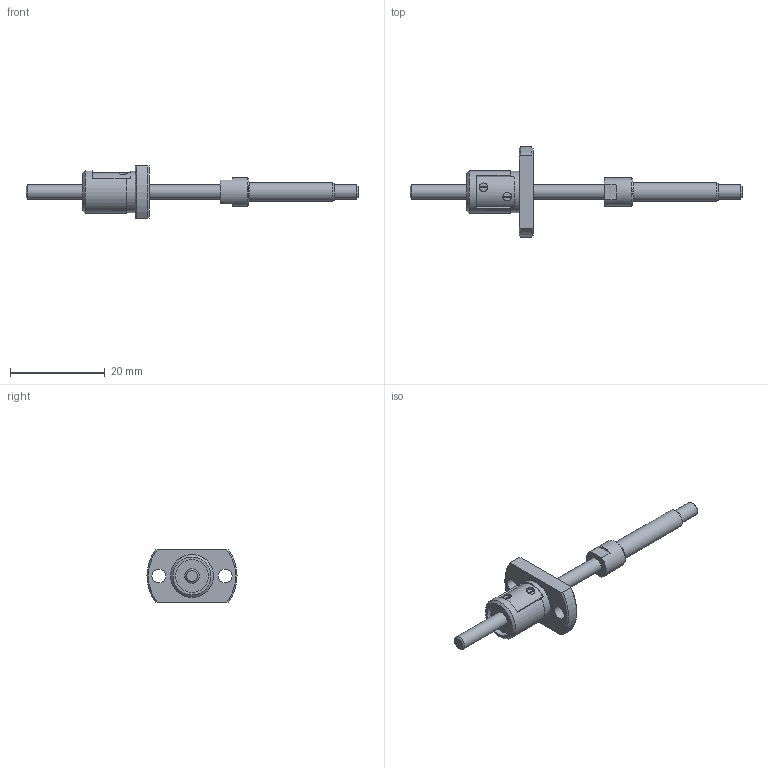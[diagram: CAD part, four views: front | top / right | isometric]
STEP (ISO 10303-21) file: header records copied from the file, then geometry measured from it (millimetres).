
FILE_DESCRIPTION(/* description */ ('STEP AP214'),/* implementation_level */ '2;1');
FILE_NAME(/* name */ 'SG0301-038R070C3A0X(12)',/* time_stamp */ '2026-07-20T19:36:26+02:00',/* author */ ('License CC BY-ND 4.0'),/* organization */ ('CADENAS'),/* preprocessor_version */ 'ST-DEVELOPER v20',/* originating_system */ 'PARTsolutions',/* authorisation */ ' ');
FILE_SCHEMA (('AUTOMOTIVE_DESIGN {1 0 10303 214 3 1 1}'));
Length unit declared in the file: millimetre
Products named in the file (3): SG0301-038R070C3A0X(12); SG0301-38R70C3A_shaft; SG0301_nut
Assembly tree (2 placements, depth 2):
  SG0301-038R070C3A0X(12)
    SG0301-38R70C3A_shaft
    SG0301_nut
Bounding box: 70 x 19 x 11 mm (x, y, z)
Volume: 1763.4 mm3; surface area: 1870.5 mm2
Topology: 2 solids, 2 shells, 67 faces, 161 edges, 106 vertices
Faces by surface type: plane 39, cylinder 18, cone 9, torus 1
Full cylindrical faces by diameter (mm): 1.78 x2, 1.8 x2, 2.9 x2, 3 x3, 4 x1, 6 x1, 7 x2, 8.7 x1, 9 x1
Entity records: 1917 total; most frequent: CARTESIAN_POINT 346, DIRECTION 326, ORIENTED_EDGE 266, EDGE_CURVE 133, AXIS2_PLACEMENT_3D 133, EDGE_LOOP 106, FACE_BOUND 106, VERTEX_POINT 99
